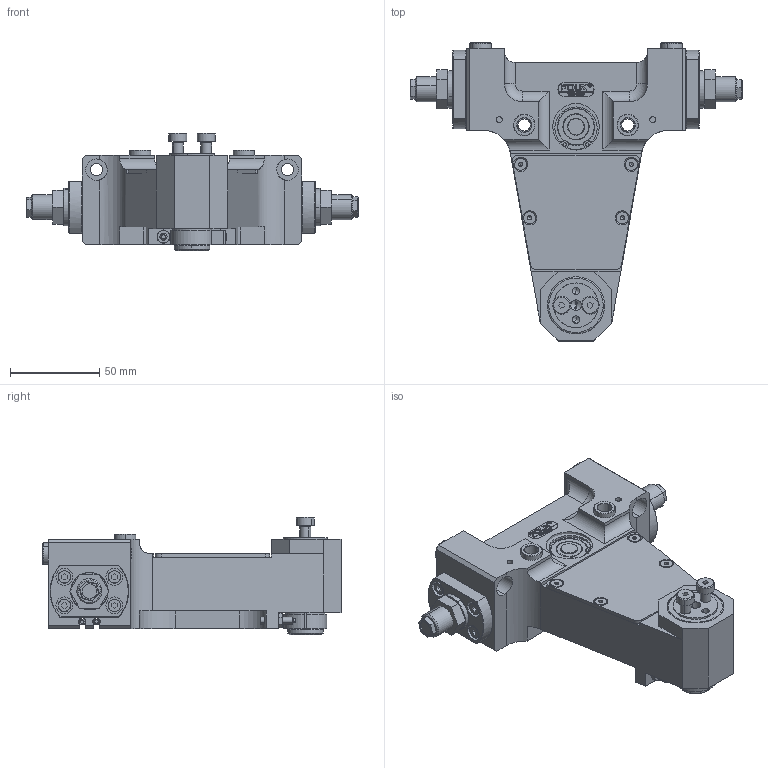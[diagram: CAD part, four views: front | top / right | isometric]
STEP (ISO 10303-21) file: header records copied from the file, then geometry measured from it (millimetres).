
FILE_DESCRIPTION (( 'STEP AP203' ), '1' );
FILE_NAME ('GS25-180¡ã.STEP', '2026-05-08T03:13:57', ( 'USER-' ), ( 'Microsoft' ), 'SwSTEP 2.0', 'SolidWorks 2018', '' );
FILE_SCHEMA (( 'CONFIG_CONTROL_DESIGN' ));
Length unit declared in the file: millimetre
Products named in the file (24): GS25-02 遣喳ん裔啣; GS25-04 葡裔啣; YH1412-AP-01蜊輛倰褲极-1; GS25-180∼; ﾏ擎ﾗ12｡ﾁ8｡ﾁ6; 1412倰遣喳ん蜊輛遴(1)-2; 内六角沉头螺钉[GBT70_3-2008][M3×8×6]_M3×8×6; GS25-01 褲极; GS25-08 第二齿轮轴16×1.25; GB╱T 79-2007[内六角圆柱端紧定螺钉M4×20]; GB╱T 290-2017[一面带密封圈的开口型滚针轴承 HK 0000-RS型HK2516-RS]; TG25-M-09躇猾詩遠; GS25-10 180｡耨ｲﾏﾞﾎｻ; GB╱T 6174-2016[六角薄螺母 无倒角M4]; 湍潛蹟邡; 20x8-R4; GB╱T 276-2013[两面带密封圈（接触式）的深沟球轴承[60000-2RS]629-2RS]; 内六角平端紧定螺钉[GBT77-2000][M5×5]_M5×5; GB╱T 893.1-1986[孔用弹性挡圈A型26]; 内六角圆柱头螺钉[GBT70_1-2008][M4×12]_M4×12; GS25-11 茞癹弇傷裔; GS25-06 第一齿轮轴16×1.25; 棠羲換覜ん; M14X1 綠僅6牉挴蹟譫
Assembly tree (44 placements, depth 3):
  GS25-180∼
    GS25-01 褲极
    GB╱T 290-2017[一面带密封圈的开口型滚针轴承 HK 0000-RS型HK2516-RS]
    GS25-06 第一齿轮轴16×1.25
    GS25-08 第二齿轮轴16×1.25
    GS25-02 遣喳ん裔啣  x2
    GB╱T 276-2013[两面带密封圈（接触式）的深沟球轴承[60000-2RS]629-2RS]
    GB╱T 893.1-1986[孔用弹性挡圈A型26]
    GS25-04 葡裔啣
    GB╱T 79-2007[内六角圆柱端紧定螺钉M4×20]  x2
    GB╱T 6174-2016[六角薄螺母 无倒角M4]  x2
    GS25-10 180｡耨ｲﾏﾞﾎｻ
    GS25-11 茞癹弇傷裔
    TG25-M-09躇猾詩遠  x2
    M14X1 綠僅6牉挴蹟譫  x2
    20x8-R4
    棠羲換覜ん  x2
    内六角沉头螺钉[GBT70_3-2008][M3×8×6]_M3×8×6  x4
    内六角圆柱头螺钉[GBT70_1-2008][M4×12]_M4×12  x8
    ﾏ擎ﾗ12｡ﾁ8｡ﾁ6  x4
    1412倰遣喳ん蜊輛遴(1)-2  x2
      YH1412-AP-01蜊輛倰褲极-1
    湍潛蹟邡  x2
    内六角平端紧定螺钉[GBT77-2000][M5×5]_M5×5
Bounding box: 186 x 167 x 66 mm (x, y, z)
Volume: 403757.6 mm3; surface area: 121970.1 mm2
Topology: 55 solids, 55 shells, 1700 faces, 4086 edges, 2552 vertices
Faces by surface type: plane 695, cylinder 475, cone 244, bspline 240, torus 46
Entity records: 47647 total; most frequent: CARTESIAN_POINT 16005, ORIENTED_EDGE 6072, DIRECTION 5538, EDGE_CURVE 3036, VERTEX_POINT 1971, AXIS2_PLACEMENT_3D 1962, VECTOR 1614, LINE 1614
